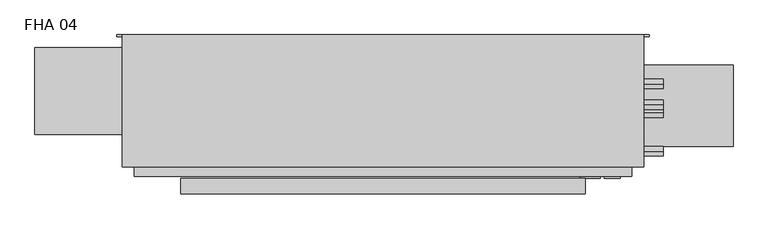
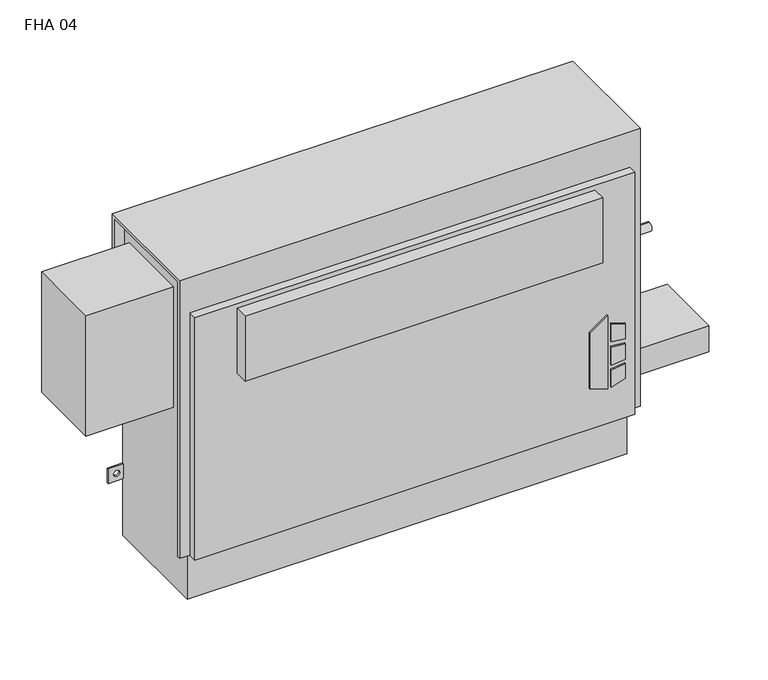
"""IFC4 building model written with IfcOpenShell, lengths in millimetres: proxy geometry, Vertical_Fan_Coil_Unit_-_FHA_-_IEC_-_4-Pipe_FS-FR_RH_2022 : FHA 04."""

from ifc_helpers import new_model, si_unit, point, frame, frame_2d, origin, place, context, project, spatial, polyline, circle_curve, trimmed, segment, composite_curve, outline, extrude, source, transform, mapped, element, save
from ifc_brep_helpers import plane_surface, revolved_surface, advanced_brep


def fha_04_cc32cb2f(model_context):
    return source(origin(), model_context, "Body", "SolidModel", [
        extrude(outline(polyline([(172.5771459, 474.7368862), (162.6290756, 506.9102728), (304.8, 506.9102728), (281.7779939, 474.7368862), (172.5771459, 474.7368862)])), frame((0.0, 9.525, 0.0), z_axis=(0.0, 1.0, 0.0), x_axis=(0.0, 0.0, 1.0)), (0.0, 0.0, 1.0), 3.175),
        extrude(outline(polyline([(251.5764313, 513.6686058), (248.3740387, 539.75), (277.6028798, 539.75), (285.6672948, 513.6686058), (251.5764313, 513.6686058)])), frame((0.0, 9.525, 0.0), z_axis=(0.0, 1.0, 0.0), x_axis=(0.0, 0.0, 1.0)), (0.0, 0.0, 1.0), 3.175),
        extrude(outline(polyline([(199.7129044, 539.75), (196.0474034, 513.6686058), (162.6290756, 513.6686058), (171.2633128, 539.75), (199.7129044, 539.75)])), frame((0.0, 9.525, 0.0), z_axis=(0.0, 1.0, 0.0), x_axis=(0.0, 0.0, 1.0)), (0.0, 0.0, 1.0), 3.175),
        extrude(outline(polyline([(239.0280658, 539.75), (241.3098921, 513.6686058), (205.3723436, 513.6686058), (208.1136086, 539.75), (239.0280658, 539.75)])), frame((0.0, 9.525, 0.0), z_axis=(0.0, 1.0, 0.0), x_axis=(0.0, 0.0, 1.0)), (0.0, 0.0, 1.0), 3.175),
        extrude(outline(composite_curve([segment(trimmed(circle_curve(frame_2d((622.3, 128.5875)), 9.525), [point((612.775, 128.5875))], [point((631.825, 128.5875))], False, "CARTESIAN"), True, "CONTINUOUS"), segment(trimmed(circle_curve(frame_2d((622.3, 128.5875)), 9.525), [point((631.825, 128.5875))], [point((612.775, 128.5875))], False, "CARTESIAN"), True, "CONTINUOUS")], self_intersect=False)), frame((0.0, 0.0, 101.6), z_axis=(0.0, 0.0, 1.0), x_axis=(1.0, 0.0, 0.0)), (0.0, 0.0, 1.0), 25.4),
        extrude(outline(polyline([(723.9, 195.2625), (723.9, 61.9125), (558.8, 61.9125), (558.8, 195.2625), (723.9, 195.2625)])), frame((0.0, 0.0, 127.0), z_axis=(0.0, 0.0, 1.0), x_axis=(1.0, 0.0, 0.0)), (0.0, 0.0, 1.0), 50.8),
        extrude(outline(polyline([(482.6, -15.875), (-177.8, -15.875), (-177.8, 9.525), (482.6, 9.525), (482.6, -15.875)])), frame((0.0, 0.0, 431.8), z_axis=(0.0, 0.0, 1.0), x_axis=(1.0, 0.0, 0.0)), (0.0, 0.0, 1.0), 127.0),
        extrude(outline(composite_curve([segment(trimmed(circle_curve(frame_2d((117.475, 472.44)), 7.9375), [point((117.475, 464.5025))], [point((117.475, 480.3775))], False, "CARTESIAN"), True, "CONTINUOUS"), segment(trimmed(circle_curve(frame_2d((117.475, 472.44)), 7.9375), [point((117.475, 480.3775))], [point((117.475, 464.5025))], False, "CARTESIAN"), True, "CONTINUOUS")], self_intersect=False)), frame((558.8, 0.0, 0.0), z_axis=(1.0, 0.0, 0.0), x_axis=(0.0, 1.0, 0.0)), (0.0, 0.0, 1.0), 50.8),
        extrude(outline(composite_curve([segment(trimmed(circle_curve(frame_2d((164.211, 445.897)), 7.9375), [point((164.211, 437.9595))], [point((164.211, 453.8345))], False, "CARTESIAN"), True, "CONTINUOUS"), segment(trimmed(circle_curve(frame_2d((164.211, 445.897)), 7.9375), [point((164.211, 453.8345))], [point((164.211, 437.9595))], False, "CARTESIAN"), True, "CONTINUOUS")], self_intersect=False)), frame((558.8, 0.0, 0.0), z_axis=(1.0, 0.0, 0.0), x_axis=(0.0, 1.0, 0.0)), (0.0, 0.0, 1.0), 50.8),
        extrude(outline(composite_curve([segment(trimmed(circle_curve(frame_2d((130.175, 554.99)), 7.9502), [point((130.175, 547.0398))], [point((130.175, 562.9402))], False, "CARTESIAN"), True, "CONTINUOUS"), segment(trimmed(circle_curve(frame_2d((130.175, 554.99)), 7.9502), [point((130.175, 562.9402))], [point((130.175, 547.0398))], False, "CARTESIAN"), True, "CONTINUOUS")], self_intersect=False)), frame((558.8, 0.0, 0.0), z_axis=(1.0, 0.0, 0.0), x_axis=(0.0, 1.0, 0.0)), (0.0, 0.0, 1.0), 50.8),
        extrude(outline(composite_curve([segment(trimmed(circle_curve(frame_2d((53.975, 416.56)), 7.9502), [point((53.975, 408.6098))], [point((53.975, 424.5102))], False, "CARTESIAN"), True, "CONTINUOUS"), segment(trimmed(circle_curve(frame_2d((53.975, 416.56)), 7.9502), [point((53.975, 424.5102))], [point((53.975, 408.6098))], False, "CARTESIAN"), True, "CONTINUOUS")], self_intersect=False)), frame((558.8, 0.0, 0.0), z_axis=(1.0, 0.0, 0.0), x_axis=(0.0, 1.0, 0.0)), (0.0, 0.0, 1.0), 50.8),
        extrude(outline(polyline([(-254.0, 223.266), (-254.0, 81.534), (-415.925, 81.534), (-415.925, 223.266), (-254.0, 223.266)])), frame((0.0, 0.0, 349.25), z_axis=(0.0, 0.0, 1.0), x_axis=(1.0, 0.0, 0.0)), (0.0, 0.0, 1.0), 234.95),
        advanced_brep(
        [(577.85, 244.475, 635.0), (-273.05, 244.475, 635.0), (-273.05, 28.575, 635.0), (577.85, 28.575, 635.0), (-254.0, 244.475, 0.0), (558.8, 244.475, 0.0), (558.8, 38.1, 0.0), (-254.0, 38.1, 0.0), (577.85, 244.475, 558.8), (558.8, 244.475, 558.8), (558.8, 244.475, 414.3375), (587.375, 244.475, 414.3375), (587.375, 244.475, 385.7625), (558.8, 244.475, 385.7625), (558.8, 244.475, 287.3375), (587.375, 244.475, 287.3375), (587.375, 244.475, 258.7625), (558.8, 244.475, 258.7625), (558.8, 244.475, 141.2875), (587.375, 244.475, 141.2875), (587.375, 244.475, 112.7125), (558.8, 244.475, 112.7125), (-254.0, 244.475, 112.7125), (-282.575, 244.475, 112.7125), (-282.575, 244.475, 141.2875), (-254.0, 244.475, 141.2875), (-254.0, 244.475, 258.7625), (-282.575, 244.475, 258.7625), (-282.575, 244.475, 287.3375), (-254.0, 244.475, 287.3375), (-254.0, 244.475, 385.7625), (-282.575, 244.475, 385.7625), (-282.575, 244.475, 414.3375), (-254.0, 244.475, 414.3375), (-254.0, 244.475, 558.8), (-273.05, 244.475, 558.8), (577.0626, 244.475, 127.0), (565.9374, 244.475, 127.0), (-261.1374, 244.475, 127.0), (-272.2626, 244.475, 127.0), (577.0626, 244.475, 273.05), (565.9374, 244.475, 273.05), (-261.1374, 244.475, 273.05), (-272.2626, 244.475, 273.05), (577.0626, 244.475, 400.05), (565.9374, 244.475, 400.05), (-261.1374, 244.475, 400.05), (-272.2626, 244.475, 400.05), (-273.05, 238.125, 558.8), (-273.05, 238.125, 628.65), (-273.05, 34.925, 628.65), (-273.05, 34.925, 92.075), (-273.05, 28.575, 92.075), (558.8, 12.7, 565.15), (-254.0, 12.7, 565.15), (-254.0, 12.7, 92.075), (558.8, 12.7, 92.075), (577.85, 28.575, 92.075), (577.85, 34.925, 92.075), (577.85, 34.925, 628.65), (577.85, 238.125, 628.65), (577.85, 238.125, 558.8), (-254.0, 28.575, 92.075), (-254.0, 28.575, 565.15), (558.8, 28.575, 565.15), (558.8, 28.575, 92.075), (-254.0, 34.925, 92.075), (-254.0, 38.1, 92.075), (558.8, 38.1, 92.075), (558.8, 34.925, 92.075), (558.8, 241.3, 112.7125), (558.8, 241.3, 141.2875), (558.8, 241.3, 258.7625), (558.8, 241.3, 287.3375), (558.8, 241.3, 385.7625), (558.8, 241.3, 414.3375), (558.8, 238.125, 558.8), (558.8, 238.125, 628.65), (558.8, 34.925, 628.65), (-254.0, 34.925, 628.65), (-254.0, 238.125, 628.65), (-254.0, 238.125, 558.8), (-254.0, 241.3, 414.3375), (-254.0, 241.3, 385.7625), (-254.0, 241.3, 287.3375), (-254.0, 241.3, 258.7625), (-254.0, 241.3, 141.2875), (-254.0, 241.3, 112.7125), (587.375, 241.3, 112.7125), (587.375, 241.3, 141.2875), (565.9374, 241.3, 127.0), (577.0626, 241.3, 127.0), (587.375, 241.3, 258.7625), (587.375, 241.3, 287.3375), (565.9374, 241.3, 273.05), (577.0626, 241.3, 273.05), (587.375, 241.3, 385.7625), (587.375, 241.3, 414.3375), (565.9374, 241.3, 400.05), (577.0626, 241.3, 400.05), (-282.575, 241.3, 141.2875), (-282.575, 241.3, 112.7125), (-272.2626, 241.3, 127.0), (-261.1374, 241.3, 127.0), (-282.575, 241.3, 287.3375), (-282.575, 241.3, 258.7625), (-272.2626, 241.3, 273.05), (-261.1374, 241.3, 273.05), (-282.575, 241.3, 414.3375), (-282.575, 241.3, 385.7625), (-272.2626, 241.3, 400.05), (-261.1374, 241.3, 400.05)],
        [
            (0, 1),
            (1, 2),
            (2, 3),
            (3, 0),
            (4, 5),
            (5, 6),
            (6, 7),
            (7, 4),
            (0, 8),
            (8, 9),
            (9, 10),
            (10, 11),
            (11, 12),
            (12, 13),
            (13, 14),
            (14, 15),
            (15, 16),
            (16, 17),
            (17, 18),
            (18, 19),
            (19, 20),
            (20, 21),
            (21, 5),
            (4, 22),
            (22, 23),
            (23, 24),
            (24, 25),
            (25, 26),
            (26, 27),
            (27, 28),
            (28, 29),
            (29, 30),
            (30, 31),
            (31, 32),
            (32, 33),
            (33, 34),
            (34, 35),
            (35, 1),
            (36, 37, circle_curve(frame((571.5, 244.475, 127.0), z_axis=(0.0, -1.0, 0.0), x_axis=(-1.0, 0.0, 0.0)), 5.5626)),
            (37, 36, circle_curve(frame((571.5, 244.475, 127.0), z_axis=(0.0, -1.0, 0.0), x_axis=(-1.0, 0.0, 0.0)), 5.5626)),
            (38, 39, circle_curve(frame((-266.7, 244.475, 127.0), z_axis=(0.0, -1.0, 0.0), x_axis=(-1.0, 0.0, 0.0)), 5.5626)),
            (39, 38, circle_curve(frame((-266.7, 244.475, 127.0), z_axis=(0.0, -1.0, 0.0), x_axis=(-1.0, 0.0, 0.0)), 5.5626)),
            (40, 41, circle_curve(frame((571.5, 244.475, 273.05), z_axis=(0.0, -1.0, 0.0), x_axis=(-1.0, 0.0, 0.0)), 5.5626)),
            (41, 40, circle_curve(frame((571.5, 244.475, 273.05), z_axis=(0.0, -1.0, 0.0), x_axis=(-1.0, 0.0, 0.0)), 5.5626)),
            (42, 43, circle_curve(frame((-266.7, 244.475, 273.05), z_axis=(0.0, -1.0, 0.0), x_axis=(-1.0, 0.0, 0.0)), 5.5626)),
            (43, 42, circle_curve(frame((-266.7, 244.475, 273.05), z_axis=(0.0, -1.0, 0.0), x_axis=(-1.0, 0.0, 0.0)), 5.5626)),
            (44, 45, circle_curve(frame((571.5, 244.475, 400.05), z_axis=(0.0, -1.0, 0.0), x_axis=(-1.0, 0.0, 0.0)), 5.5626)),
            (45, 44, circle_curve(frame((571.5, 244.475, 400.05), z_axis=(0.0, -1.0, 0.0), x_axis=(-1.0, 0.0, 0.0)), 5.5626)),
            (46, 47, circle_curve(frame((-266.7, 244.475, 400.05), z_axis=(0.0, -1.0, 0.0), x_axis=(-1.0, 0.0, 0.0)), 5.5626)),
            (47, 46, circle_curve(frame((-266.7, 244.475, 400.05), z_axis=(0.0, -1.0, 0.0), x_axis=(-1.0, 0.0, 0.0)), 5.5626)),
            (35, 48),
            (48, 49),
            (49, 50),
            (50, 51),
            (51, 52),
            (52, 2),
            (53, 54),
            (54, 55),
            (55, 56),
            (56, 53),
            (3, 57),
            (57, 58),
            (58, 59),
            (59, 60),
            (60, 61),
            (61, 8),
            (52, 62),
            (62, 63),
            (63, 64),
            (64, 65),
            (65, 57),
            (53, 64),
            (63, 54),
            (55, 62),
            (51, 66),
            (66, 67),
            (67, 68),
            (68, 69),
            (69, 58),
            (65, 56),
            (6, 68),
            (67, 7),
            (21, 70),
            (70, 71),
            (71, 18),
            (17, 72),
            (72, 73),
            (73, 14),
            (13, 74),
            (74, 75),
            (75, 10),
            (9, 76),
            (76, 77),
            (77, 78),
            (78, 69),
            (66, 79),
            (79, 80),
            (80, 81),
            (81, 34),
            (33, 82),
            (82, 83),
            (83, 30),
            (29, 84),
            (84, 85),
            (85, 26),
            (25, 86),
            (86, 87),
            (87, 22),
            (76, 61),
            (60, 77),
            (78, 59),
            (50, 79),
            (81, 48),
            (80, 49),
            (70, 88),
            (88, 89),
            (89, 71),
            (90, 91, circle_curve(frame((571.5, 241.3, 127.0), z_axis=(0.0, 1.0, 0.0), x_axis=(-1.0, 0.0, 0.0)), 5.5626)),
            (91, 90, circle_curve(frame((571.5, 241.3, 127.0), z_axis=(0.0, 1.0, 0.0), x_axis=(-1.0, 0.0, 0.0)), 5.5626)),
            (92, 93),
            (93, 73),
            (72, 92),
            (94, 95, circle_curve(frame((571.5, 241.3, 273.05), z_axis=(0.0, 1.0, 0.0), x_axis=(-1.0, 0.0, 0.0)), 5.5626)),
            (95, 94, circle_curve(frame((571.5, 241.3, 273.05), z_axis=(0.0, 1.0, 0.0), x_axis=(-1.0, 0.0, 0.0)), 5.5626)),
            (96, 97),
            (97, 75),
            (74, 96),
            (98, 99, circle_curve(frame((571.5, 241.3, 400.05), z_axis=(0.0, 1.0, 0.0), x_axis=(-1.0, 0.0, 0.0)), 5.5626)),
            (99, 98, circle_curve(frame((571.5, 241.3, 400.05), z_axis=(0.0, 1.0, 0.0), x_axis=(-1.0, 0.0, 0.0)), 5.5626)),
            (100, 101),
            (101, 87),
            (86, 100),
            (102, 103, circle_curve(frame((-266.7, 241.3, 127.0), z_axis=(0.0, 1.0, 0.0), x_axis=(-1.0, 0.0, 0.0)), 5.5626)),
            (103, 102, circle_curve(frame((-266.7, 241.3, 127.0), z_axis=(0.0, 1.0, 0.0), x_axis=(-1.0, 0.0, 0.0)), 5.5626)),
            (84, 104),
            (104, 105),
            (105, 85),
            (106, 107, circle_curve(frame((-266.7, 241.3, 273.05), z_axis=(0.0, 1.0, 0.0), x_axis=(-1.0, 0.0, 0.0)), 5.5626)),
            (107, 106, circle_curve(frame((-266.7, 241.3, 273.05), z_axis=(0.0, 1.0, 0.0), x_axis=(-1.0, 0.0, 0.0)), 5.5626)),
            (108, 109),
            (109, 83),
            (82, 108),
            (110, 111, circle_curve(frame((-266.7, 241.3, 400.05), z_axis=(0.0, 1.0, 0.0), x_axis=(-1.0, 0.0, 0.0)), 5.5626)),
            (111, 110, circle_curve(frame((-266.7, 241.3, 400.05), z_axis=(0.0, 1.0, 0.0), x_axis=(-1.0, 0.0, 0.0)), 5.5626)),
            (89, 19),
            (88, 20),
            (16, 92),
            (93, 15),
            (12, 96),
            (97, 11),
            (24, 100),
            (101, 23),
            (105, 27),
            (104, 28),
            (32, 108),
            (109, 31),
            (90, 37),
            (36, 91),
            (102, 39),
            (38, 103),
            (94, 41),
            (40, 95),
            (106, 43),
            (42, 107),
            (98, 45),
            (44, 99),
            (110, 47),
            (46, 111),
        ],
        [
            plane_surface(frame((-273.05, 244.475, 635.0), z_axis=(0.0, 0.0, 1.0), x_axis=(-1.0, 0.0, 0.0))),
            plane_surface(frame((-273.05, 244.475, 0.0), z_axis=(0.0, 0.0, -1.0), x_axis=(1.0, 0.0, 0.0))),
            plane_surface(frame((577.85, 244.475, 635.0), z_axis=(0.0, 1.0, 0.0), x_axis=(0.0, 0.0, -1.0))),
            plane_surface(frame((-273.05, 244.475, 635.0), z_axis=(-1.0, 0.0, 0.0), x_axis=(0.0, 0.0, -1.0))),
            plane_surface(frame((-273.05, 12.7, 635.0), z_axis=(0.0, -1.0, 0.0), x_axis=(0.0, 0.0, -1.0))),
            plane_surface(frame((577.85, 12.7, 635.0), z_axis=(1.0, 0.0, 0.0), x_axis=(0.0, 0.0, -1.0))),
            plane_surface(frame((-400.05, 28.575, 635.0), z_axis=(0.0, -1.0, 0.0), x_axis=(1.0, 0.0, 0.0))),
            plane_surface(frame((-400.05, 28.575, 565.15), z_axis=(0.0, 0.0, 1.0), x_axis=(1.0, 0.0, 0.0))),
            plane_surface(frame((-273.05, 12.7, 92.075), z_axis=(0.0, 0.0, -1.0), x_axis=(1.0, 0.0, 0.0))),
            plane_surface(frame((-273.05, 38.1, 92.075), z_axis=(0.0, -1.0, 0.0), x_axis=(1.0, 0.0, 0.0))),
            plane_surface(frame((558.8, 28.575, 92.075), z_axis=(1.0, 0.0, 0.0), x_axis=(0.0, -1.0, 0.0))),
            plane_surface(frame((-254.0, 28.575, 565.15), z_axis=(-1.0, 0.0, 0.0), x_axis=(0.0, -1.0, 0.0))),
            plane_surface(frame((558.8, 244.475, 0.0), z_axis=(1.0, 0.0, 0.0), x_axis=(0.0, -1.0, 0.0))),
            plane_surface(frame((-254.0, 244.475, 92.075), z_axis=(-1.0, 0.0, 0.0), x_axis=(0.0, -1.0, 0.0))),
            plane_surface(frame((558.8, 238.125, 628.65), z_axis=(0.0, -1.0, 0.0), x_axis=(1.0, 0.0, 0.0))),
            plane_surface(frame((558.8, 238.125, 558.8), z_axis=(0.0, 0.0, -1.0), x_axis=(1.0, 0.0, 0.0))),
            plane_surface(frame((558.8, 34.925, 92.075), z_axis=(0.0, 1.0, 0.0), x_axis=(1.0, 0.0, 0.0))),
            plane_surface(frame((558.8, 34.925, 628.65), z_axis=(0.0, 0.0, -1.0), x_axis=(1.0, 0.0, 0.0))),
            plane_surface(frame((-254.0, 34.925, 628.65), z_axis=(0.0, 1.0, 0.0), x_axis=(-1.0, 0.0, 0.0))),
            plane_surface(frame((-254.0, 244.475, 558.8), z_axis=(0.0, 0.0, -1.0), x_axis=(-1.0, 0.0, 0.0))),
            plane_surface(frame((-254.0, 238.125, 558.8), z_axis=(0.0, -1.0, 0.0), x_axis=(-1.0, 0.0, 0.0))),
            plane_surface(frame((-254.0, 238.125, 628.65), z_axis=(0.0, 0.0, -1.0), x_axis=(-1.0, 0.0, 0.0))),
            plane_surface(frame((587.375, 241.3, 141.2875), z_axis=(0.0, -1.0, 0.0), x_axis=(-1.0, 0.0, 0.0))),
            plane_surface(frame((558.8, 244.475, 141.2875), z_axis=(0.0, 0.0, 1.0), x_axis=(0.0, -1.0, 0.0))),
            plane_surface(frame((587.375, 244.475, 141.2875), z_axis=(1.0, 0.0, 0.0), x_axis=(0.0, -1.0, 0.0))),
            plane_surface(frame((587.375, 244.475, 112.7125), z_axis=(0.0, 0.0, -1.0), x_axis=(0.0, -1.0, 0.0))),
            plane_surface(frame((587.375, 244.475, 258.7625), z_axis=(0.0, 0.0, -1.0), x_axis=(0.0, -1.0, 0.0))),
            plane_surface(frame((558.8, 244.475, 287.3375), z_axis=(0.0, 0.0, 1.0), x_axis=(0.0, -1.0, 0.0))),
            plane_surface(frame((587.375, 244.475, 287.3375), z_axis=(1.0, 0.0, 0.0), x_axis=(0.0, -1.0, 0.0))),
            plane_surface(frame((587.375, 244.475, 385.7625), z_axis=(0.0, 0.0, -1.0), x_axis=(0.0, -1.0, 0.0))),
            plane_surface(frame((558.8, 244.475, 414.3375), z_axis=(0.0, 0.0, 1.0), x_axis=(0.0, -1.0, 0.0))),
            plane_surface(frame((587.375, 244.475, 414.3375), z_axis=(1.0, 0.0, 0.0), x_axis=(0.0, -1.0, 0.0))),
            plane_surface(frame((-282.575, 244.475, 141.2875), z_axis=(0.0, 0.0, 1.0), x_axis=(0.0, -1.0, 0.0))),
            plane_surface(frame((-254.0, 244.475, 112.7125), z_axis=(0.0, 0.0, -1.0), x_axis=(0.0, -1.0, 0.0))),
            plane_surface(frame((-282.575, 244.475, 112.7125), z_axis=(-1.0, 0.0, 0.0), x_axis=(0.0, -1.0, 0.0))),
            plane_surface(frame((-254.0, 244.475, 258.7625), z_axis=(0.0, 0.0, -1.0), x_axis=(0.0, -1.0, 0.0))),
            plane_surface(frame((-282.575, 244.475, 258.7625), z_axis=(-1.0, 0.0, 0.0), x_axis=(0.0, -1.0, 0.0))),
            plane_surface(frame((-282.575, 244.475, 287.3375), z_axis=(0.0, 0.0, 1.0), x_axis=(0.0, -1.0, 0.0))),
            plane_surface(frame((-282.575, 244.475, 414.3375), z_axis=(0.0, 0.0, 1.0), x_axis=(0.0, -1.0, 0.0))),
            plane_surface(frame((-254.0, 244.475, 385.7625), z_axis=(0.0, 0.0, -1.0), x_axis=(0.0, -1.0, 0.0))),
            plane_surface(frame((-282.575, 244.475, 385.7625), z_axis=(-1.0, 0.0, 0.0), x_axis=(0.0, -1.0, 0.0))),
            revolved_surface(polyline([(565.9374, 241.3, 127.0), (565.9374, 244.475, 127.0)]), (571.5, 244.475, 127.0), (0.0, -1.0, 0.0)),
            revolved_surface(polyline([(-272.26259999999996, 241.3, 127.0), (-272.26259999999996, 244.475, 127.0)]), (-266.7, 244.475, 127.0), (0.0, -1.0, 0.0)),
            revolved_surface(polyline([(565.9374, 241.3, 273.05), (565.9374, 244.475, 273.05)]), (571.5, 244.475, 273.05), (0.0, -1.0, 0.0)),
            revolved_surface(polyline([(-272.26259999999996, 241.3, 273.05), (-272.26259999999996, 244.475, 273.05)]), (-266.7, 244.475, 273.05), (0.0, -1.0, 0.0)),
            revolved_surface(polyline([(565.9374, 241.3, 400.05), (565.9374, 244.475, 400.05)]), (571.5, 244.475, 400.05), (0.0, -1.0, 0.0)),
            revolved_surface(polyline([(-272.26259999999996, 241.3, 400.05), (-272.26259999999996, 244.475, 400.05)]), (-266.7, 244.475, 400.05), (0.0, -1.0, 0.0)),
        ],
        [
            (0, [[1, 2, 3, 4]]),
            (1, [[5, 6, 7, 8]]),
            (2, [[-1, 9, 10, 11, 12, 13, 14, 15, 16, 17, 18, 19, 20, 21, 22, 23, -5, 24, 25, 26, 27, 28, 29, 30, 31, 32, 33, 34, 35, 36, 37, 38], [39, 40], [41, 42], [43, 44], [45, 46], [47, 48], [49, 50]]),
            (3, [[-2, -38, 51, 52, 53, 54, 55, 56]]),
            (4, [[57, 58, 59, 60]]),
            (5, [[-4, 61, 62, 63, 64, 65, 66, -9]]),
            (6, [[-3, -56, 67, 68, 69, 70, 71, -61]]),
            (7, [[-57, 72, -69, 73]]),
            (8, [[-59, 74, -67, -55, 75, 76, 77, 78, 79, -62, -71, 80]]),
            (9, [[-7, 81, -77, 82]]),
            (10, [[-70, -72, -60, -80]]),
            (11, [[-68, -74, -58, -73]]),
            (12, [[-6, -23, 83, 84, 85, -19, 86, 87, 88, -15, 89, 90, 91, -11, 92, 93, 94, 95, -78, -81]]),
            (13, [[-8, -82, -76, 96, 97, 98, 99, -36, 100, 101, 102, -32, 103, 104, 105, -28, 106, 107, 108, -24]]),
            (14, [[-93, 109, -65, 110]]),
            (15, [[-92, -10, -66, -109]]),
            (16, [[-95, 111, -63, -79]]),
            (17, [[-94, -110, -64, -111]]),
            (18, [[-96, -75, -54, 112]]),
            (19, [[-99, 113, -51, -37]]),
            (20, [[-98, 114, -52, -113]]),
            (21, [[-97, -112, -53, -114]]),
            (22, [[115, 116, 117, -84], [118, 119]]),
            (22, [[120, 121, -87, 122], [123, 124]]),
            (22, [[125, 126, -90, 127], [128, 129]]),
            (22, [[130, 131, -107, 132], [133, 134]]),
            (22, [[135, 136, 137, -104], [138, 139]]),
            (22, [[140, 141, -101, 142], [143, 144]]),
            (23, [[-117, 145, -20, -85]]),
            (24, [[-116, 146, -21, -145]]),
            (25, [[-115, -83, -22, -146]]),
            (26, [[-122, -86, -18, 147]]),
            (27, [[-121, 148, -16, -88]]),
            (28, [[-120, -147, -17, -148]]),
            (29, [[-127, -89, -14, 149]]),
            (30, [[-126, 150, -12, -91]]),
            (31, [[-125, -149, -13, -150]]),
            (32, [[-132, -106, -27, 151]]),
            (33, [[-131, 152, -25, -108]]),
            (34, [[-130, -151, -26, -152]]),
            (35, [[-137, 153, -29, -105]]),
            (36, [[-136, 154, -30, -153]]),
            (37, [[-135, -103, -31, -154]]),
            (38, [[-142, -100, -35, 155]]),
            (39, [[-141, 156, -33, -102]]),
            (40, [[-140, -155, -34, -156]]),
            (41, [[157, -39, 158, -118]]),
            (41, [[-157, -119, -158, -40]]),
            (42, [[159, -41, 160, -133]]),
            (42, [[-159, -134, -160, -42]]),
            (43, [[161, -43, 162, -123]]),
            (43, [[-161, -124, -162, -44]]),
            (44, [[163, -45, 164, -138]]),
            (44, [[-163, -139, -164, -46]]),
            (45, [[165, -47, 166, -128]]),
            (45, [[-165, -129, -166, -48]]),
            (46, [[167, -49, 168, -143]]),
            (46, [[-167, -144, -168, -50]]),
        ],
    ),
    ])


if __name__ == "__main__":
    model = new_model("IFC4")
    model_context = context("Model", 3, world=origin())
    ifc_project = project(units=[si_unit("LENGTHUNIT", "METRE", prefix="MILLI")], contexts=[model_context])
    site = spatial("IfcSite", under=ifc_project)
    building = spatial("IfcBuilding", under=site)
    placement = place(None, origin())
    fha_04_shape = fha_04_cc32cb2f(model_context)
    element("IfcBuildingElementProxy", 1, Name="Vertical_Fan_Coil_Unit_-_FHA_-_IEC_-_4-Pipe_FS-FR_RH_2022 : FHA 04", ObjectType="Vertical_Fan_Coil_Unit_-_FHA_-_IEC_-_4-Pipe_FS-FR_RH_2022 : FHA 04", at=placement, inside=building, context=model_context, shape_type="MappedRepresentation", body=[
        mapped(fha_04_shape, transform((0.0, 0.0, 0.0), x_axis=(1.0, 0.0, 0.0), y_axis=(0.0, 1.0, 0.0), z_axis=(0.0, 0.0, 1.0))),
    ])
    save(model, "model.ifc")
